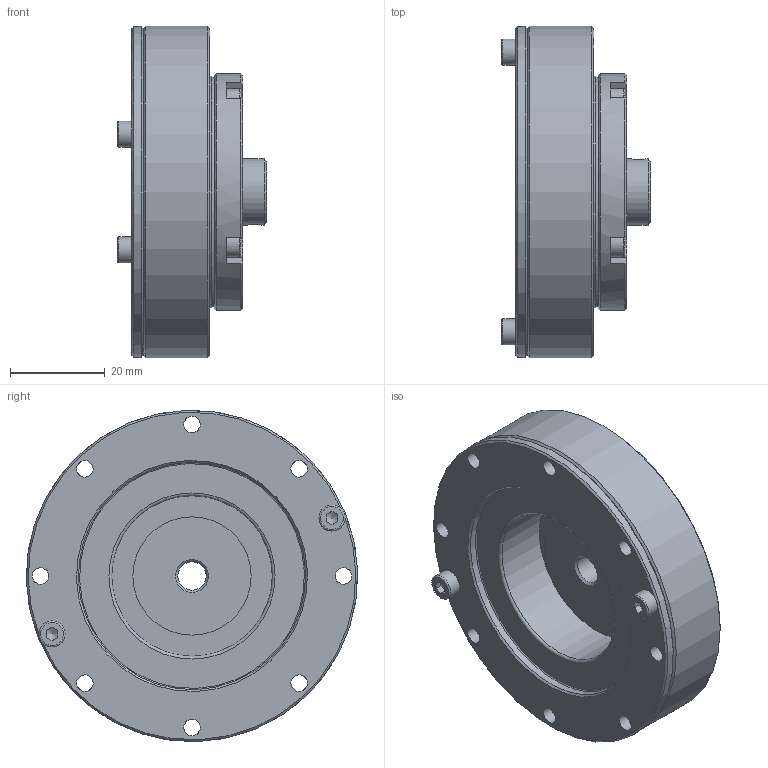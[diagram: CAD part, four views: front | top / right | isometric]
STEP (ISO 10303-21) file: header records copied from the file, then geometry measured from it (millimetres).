
FILE_DESCRIPTION(/* description */ (''),/* implementation_level */ '2;1');
FILE_NAME(/* name */ 'S:\TB00F\研發課二組\機密級\97.\X2\540C4EC151714EAB5340\X0\ (機密級)\H11\欣怡\2023專案追蹤\2.型錄\模型\\X2\5B987DB2\X0\3D檔(NEW)\DSH-PO(14-40)\DSH-14-PO.stp',/* time_stamp */ '2024-10-22T14:16:46+08:00',/* author */ ('bb1128.zheng'),/* organization */ (''),/* preprocessor_version */ 'ST-DEVELOPER v15.2',/* originating_system */ 'Autodesk Inventor 2014',/* authorisation */ '');
FILE_SCHEMA (('AUTOMOTIVE_DESIGN { 1 0 10303 214 3 1 1 }'));
Length unit declared in the file: centimetre
Products named in the file (1): AK0004M1-模型
Bounding box: 31.5 x 70 x 70 mm (x, y, z)
Volume: 60947.7 mm3; surface area: 19047.3 mm2
Topology: 1 solids, 1 shells, 421 faces, 1066 edges, 671 vertices
Faces by surface type: cylinder 161, plane 133, torus 55, cone 47, sphere 23, bspline 2
Full cylindrical faces by diameter (mm): 1.7 x2, 2.459 x10, 3.5 x24, 5.5 x6, 6 x1, 13.4 x1, 14 x1, 20 x2, 22 x1, 25 x1, 26.67 x1, 32.37 x1, 33.89 x2, 48 x1, 49 x1, 50 x1, 70 x2
Entity records: 12086 total; most frequent: CARTESIAN_POINT 2325, DIRECTION 2192, ORIENTED_EDGE 1762, AXIS2_PLACEMENT_3D 987, EDGE_CURVE 835, EDGE_LOOP 602, VERTEX_POINT 575, CIRCLE 567
